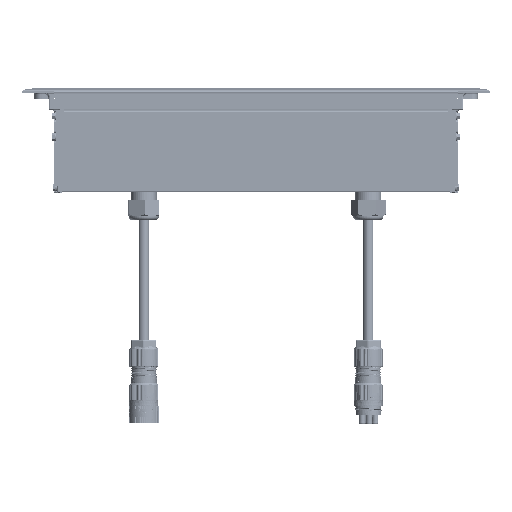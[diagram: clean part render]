
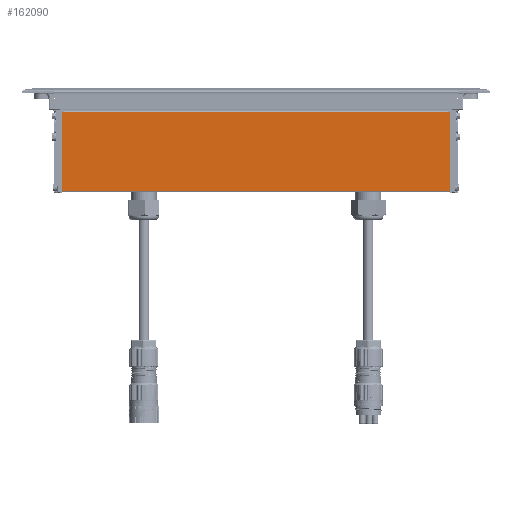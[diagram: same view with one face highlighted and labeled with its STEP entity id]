
A CAD part, left-side view. The second image highlights one B-rep face of the part: STEP entity #162090.
In plain terms, the highlighted planar face has unit normal (-1, 0, 0).
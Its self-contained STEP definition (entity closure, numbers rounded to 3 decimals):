
#8015=CIRCLE('',#168982,0.2);
#8016=CIRCLE('',#168983,0.2);
#15010=ORIENTED_EDGE('',*,*,#52216,.F.);
#15011=ORIENTED_EDGE('',*,*,#52217,.T.);
#15012=ORIENTED_EDGE('',*,*,#52218,.T.);
#15013=ORIENTED_EDGE('',*,*,#52219,.T.);
#15014=ORIENTED_EDGE('',*,*,#52220,.T.);
#15015=ORIENTED_EDGE('',*,*,#52221,.T.);
#15016=ORIENTED_EDGE('',*,*,#52222,.F.);
#15017=ORIENTED_EDGE('',*,*,#52223,.T.);
#15018=ORIENTED_EDGE('',*,*,#52224,.T.);
#15019=ORIENTED_EDGE('',*,*,#52225,.F.);
#15020=ORIENTED_EDGE('',*,*,#52226,.F.);
#15021=ORIENTED_EDGE('',*,*,#52227,.T.);
#15022=ORIENTED_EDGE('',*,*,#52228,.F.);
#15023=ORIENTED_EDGE('',*,*,#52229,.F.);
#15024=ORIENTED_EDGE('',*,*,#52230,.T.);
#15025=ORIENTED_EDGE('',*,*,#52231,.T.);
#52216=EDGE_CURVE('',#70701,#70702,#82847,.T.);
#52217=EDGE_CURVE('',#70701,#70703,#82848,.T.);
#52218=EDGE_CURVE('',#70703,#70704,#82849,.T.);
#52219=EDGE_CURVE('',#70704,#70705,#82850,.T.);
#52220=EDGE_CURVE('',#70705,#70706,#82851,.T.);
#52221=EDGE_CURVE('',#70706,#70707,#82852,.T.);
#52222=EDGE_CURVE('',#70708,#70707,#82853,.T.);
#52223=EDGE_CURVE('',#70708,#70709,#82854,.T.);
#52224=EDGE_CURVE('',#70709,#70710,#82855,.T.);
#52225=EDGE_CURVE('',#70711,#70710,#8015,.T.);
#52226=EDGE_CURVE('',#70712,#70711,#82856,.T.);
#52227=EDGE_CURVE('',#70712,#70713,#82857,.F.);
#52228=EDGE_CURVE('',#70714,#70713,#82858,.T.);
#52229=EDGE_CURVE('',#70715,#70714,#8016,.T.);
#52230=EDGE_CURVE('',#70715,#70716,#82859,.T.);
#52231=EDGE_CURVE('',#70716,#70702,#82860,.T.);
#70701=VERTEX_POINT('',#453293);
#70702=VERTEX_POINT('',#453294);
#70703=VERTEX_POINT('',#453296);
#70704=VERTEX_POINT('',#453298);
#70705=VERTEX_POINT('',#453300);
#70706=VERTEX_POINT('',#453302);
#70707=VERTEX_POINT('',#453304);
#70708=VERTEX_POINT('',#453306);
#70709=VERTEX_POINT('',#453308);
#70710=VERTEX_POINT('',#453310);
#70711=VERTEX_POINT('',#453312);
#70712=VERTEX_POINT('',#453314);
#70713=VERTEX_POINT('',#453316);
#70714=VERTEX_POINT('',#453318);
#70715=VERTEX_POINT('',#453320);
#70716=VERTEX_POINT('',#453322);
#82847=LINE('',#453292,#91549);
#82848=LINE('',#453295,#91550);
#82849=LINE('',#453297,#91551);
#82850=LINE('',#453299,#91552);
#82851=LINE('',#453301,#91553);
#82852=LINE('',#453303,#91554);
#82853=LINE('',#453305,#91555);
#82854=LINE('',#453307,#91556);
#82855=LINE('',#453309,#91557);
#82856=LINE('',#453313,#91558);
#82857=LINE('',#453315,#91559);
#82858=LINE('',#453317,#91560);
#82859=LINE('',#453321,#91561);
#82860=LINE('',#453323,#91562);
#91549=VECTOR('',#182079,1000.);
#91550=VECTOR('',#182080,1000.);
#91551=VECTOR('',#182081,1000.);
#91552=VECTOR('',#182082,1000.);
#91553=VECTOR('',#182083,1000.);
#91554=VECTOR('',#182084,1000.);
#91555=VECTOR('',#182085,1000.);
#91556=VECTOR('',#182086,1000.);
#91557=VECTOR('',#182087,1000.);
#91558=VECTOR('',#182090,1000.);
#91559=VECTOR('',#182091,1000.);
#91560=VECTOR('',#182092,1000.);
#91561=VECTOR('',#182095,1000.);
#91562=VECTOR('',#182096,1000.);
#99632=EDGE_LOOP('',(#15010,#15011,#15012,#15013,#15014,#15015,#15016,#15017,
#15018,#15019,#15020,#15021,#15022,#15023,#15024,#15025));
#106742=FACE_BOUND('',#99632,.T.);
#113644=PLANE('',#168981);
#162090=ADVANCED_FACE('',(#106742),#113644,.F.);
#168981=AXIS2_PLACEMENT_3D('',#453291,#182077,#182078);
#168982=AXIS2_PLACEMENT_3D('',#453311,#182088,#182089);
#168983=AXIS2_PLACEMENT_3D('',#453319,#182093,#182094);
#182077=DIRECTION('',(1.,0.,0.));
#182078=DIRECTION('',(0.,0.,1.));
#182079=DIRECTION('',(0.,0.,1.));
#182080=DIRECTION('',(0.,1.,0.));
#182081=DIRECTION('',(0.,0.,-1.));
#182082=DIRECTION('',(0.,-1.,0.));
#182083=DIRECTION('',(0.,0.,1.));
#182084=DIRECTION('',(0.,1.,0.));
#182085=DIRECTION('',(0.,0.,-1.));
#182086=DIRECTION('',(0.,-1.,0.));
#182087=DIRECTION('',(0.,0.,1.));
#182088=DIRECTION('',(1.,0.,0.));
#182089=DIRECTION('',(0.,0.,-1.));
#182090=DIRECTION('',(0.,0.,-1.));
#182091=DIRECTION('',(0.,-1.,0.));
#182092=DIRECTION('',(0.,0.,1.));
#182093=DIRECTION('',(1.,0.,0.));
#182094=DIRECTION('',(0.,0.,-1.));
#182095=DIRECTION('',(0.,0.,-1.));
#182096=DIRECTION('',(0.,-1.,0.));
#453291=CARTESIAN_POINT('',(-22.5,159.5,-76.1));
#453292=CARTESIAN_POINT('',(-22.5,153.,-76.1));
#453293=CARTESIAN_POINT('',(-22.5,153.,-68.35));
#453294=CARTESIAN_POINT('',(-22.5,153.,-65.25));
#453295=CARTESIAN_POINT('',(-22.5,159.5,-68.35));
#453296=CARTESIAN_POINT('',(-22.5,153.5,-68.35));
#453297=CARTESIAN_POINT('',(-22.5,153.5,-76.1));
#453298=CARTESIAN_POINT('',(-22.5,153.5,-74.6));
#453299=CARTESIAN_POINT('',(-22.5,159.5,-74.6));
#453300=CARTESIAN_POINT('',(-22.5,-154.5,-74.6));
#453301=CARTESIAN_POINT('',(-22.5,-154.5,-76.1));
#453302=CARTESIAN_POINT('',(-22.5,-154.5,-68.35));
#453303=CARTESIAN_POINT('',(-22.5,159.5,-68.35));
#453304=CARTESIAN_POINT('',(-22.5,-154.,-68.35));
#453305=CARTESIAN_POINT('',(-22.5,-154.,-76.1));
#453306=CARTESIAN_POINT('',(-22.5,-154.,-65.25));
#453307=CARTESIAN_POINT('',(-22.5,159.5,-65.25));
#453308=CARTESIAN_POINT('',(-22.5,-154.5,-65.25));
#453309=CARTESIAN_POINT('',(-22.5,-154.5,-76.1));
#453310=CARTESIAN_POINT('',(-22.5,-154.5,-12.85));
#453311=CARTESIAN_POINT('',(-22.5,-154.3,-12.85));
#453312=CARTESIAN_POINT('',(-22.5,-154.49,-12.788));
#453313=CARTESIAN_POINT('',(-22.5,-154.49,-76.1));
#453314=CARTESIAN_POINT('',(-22.5,-154.49,-12.136));
#453315=CARTESIAN_POINT('',(-22.5,159.5,-12.136));
#453316=CARTESIAN_POINT('',(-22.5,153.49,-12.136));
#453317=CARTESIAN_POINT('',(-22.5,153.49,-76.1));
#453318=CARTESIAN_POINT('',(-22.5,153.49,-12.788));
#453319=CARTESIAN_POINT('',(-22.5,153.3,-12.85));
#453320=CARTESIAN_POINT('',(-22.5,153.5,-12.85));
#453321=CARTESIAN_POINT('',(-22.5,153.5,-76.1));
#453322=CARTESIAN_POINT('',(-22.5,153.5,-65.25));
#453323=CARTESIAN_POINT('',(-22.5,159.5,-65.25));
